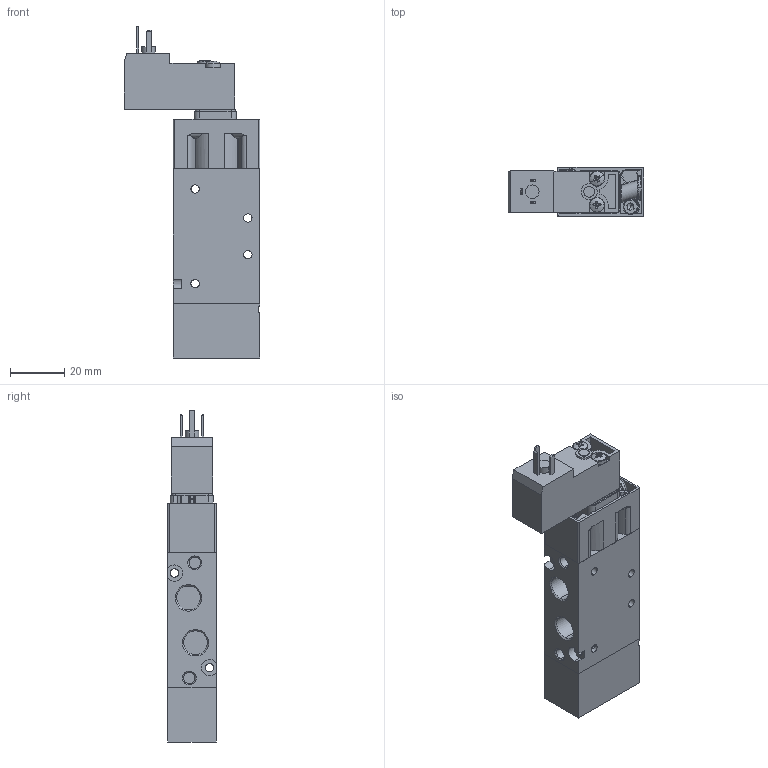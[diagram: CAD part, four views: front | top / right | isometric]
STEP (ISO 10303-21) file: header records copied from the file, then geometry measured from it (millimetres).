
FILE_DESCRIPTION (( 'STEP AP214' ), '1' );
FILE_NAME ('05_043_4.STEP', '2016-02-19T10:01:50', ( '' ), ( '' ), 'SwSTEP 2.0', 'SolidWorks 2016', '' );
FILE_SCHEMA (( 'AUTOMOTIVE_DESIGN' ));
Length unit declared in the file: millimetre
Products named in the file (1): 05_043_4
Bounding box: 50.3 x 18 x 122.8 mm (x, y, z)
Volume: 56721.9 mm3; surface area: 23759.4 mm2
Topology: 10 solids, 10 shells, 1539 faces, 3925 edges, 2414 vertices
Faces by surface type: cone 588, cylinder 523, plane 291, bspline 101, torus 30, sphere 6
Entity records: 52073 total; most frequent: CARTESIAN_POINT 13674, DIRECTION 8603, ORIENTED_EDGE 7778, EDGE_CURVE 3889, AXIS2_PLACEMENT_3D 3486, VERTEX_POINT 2411, CIRCLE 2047, VECTOR 1631
